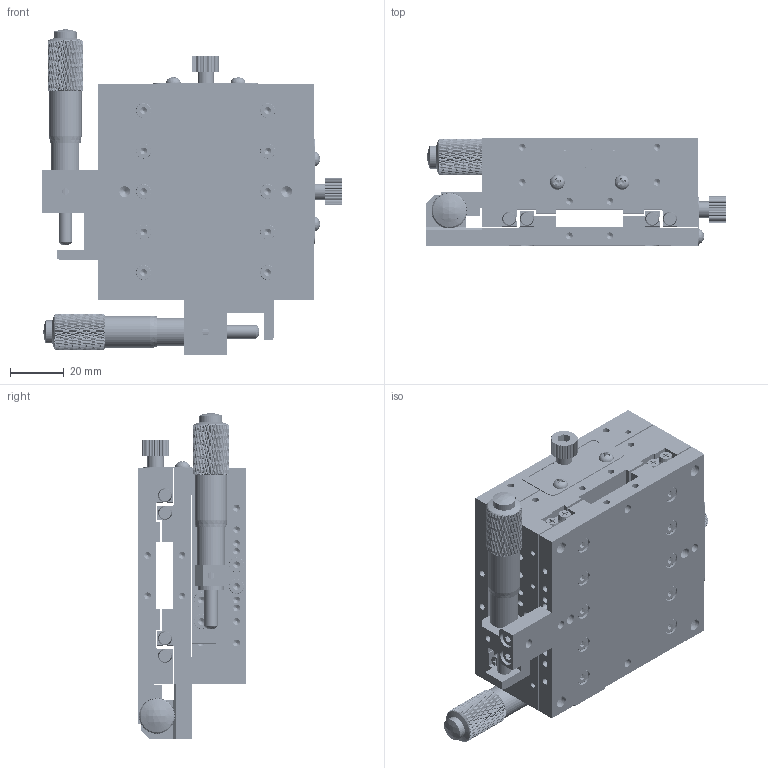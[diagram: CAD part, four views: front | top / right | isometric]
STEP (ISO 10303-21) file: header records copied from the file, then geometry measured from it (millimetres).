
FILE_DESCRIPTION (( 'STEP AP203' ), '1' );
FILE_NAME ('JCXY-80L-25.STEP', '2013-12-24T04:26:00', ( 'MMO' ), ( '' ), 'SwSTEP 2.0', 'SolidWorks 2013', '' );
FILE_SCHEMA (( 'CONFIG_CONTROL_DESIGN' ));
Length unit declared in the file: millimetre
Products named in the file (13): JALB-73-RS; JCX-80-10-01; JCX-80-01-01; round cross head screw_ks_KS 1023 RC - M3 x 5-N; JCX-80-02-01; JCX-80L-25; JV2-75-13; socket head cap screw_ks_KS 1003 - M4 x 6 x 6-N; JCXY-40S-04-01; JCXY-80L-25; JCX-60-18T-006; JCX-60-20T-004; socket head cap screw_ks_KS 1003 - M3 x 5 x 5-N
Assembly tree (43 placements, depth 3):
  JCXY-80L-25
    JCX-80L-25  x2
      JCX-80-01-01
      JCX-80-02-01
      JV2-75-13
      JCXY-40S-04-01
      JCX-60-18T-006
      JCX-60-20T-004
      socket head cap screw_ks_KS 1003 - M3 x 5 x 5-N
      JALB-73-RS
      JCX-80-10-01
      round cross head screw_ks_KS 1023 RC - M3 x 5-N
    socket head cap screw_ks_KS 1003 - M4 x 6 x 6-N  x4
Bounding box: 110.9 x 40 x 120.7 mm (x, y, z)
Volume: 231192.4 mm3; surface area: 122950.9 mm2
Topology: 78 solids, 78 shells, 6574 faces, 15124 edges, 8700 vertices
Faces by surface type: cylinder 2096, bspline 1920, plane 1686, cone 524, torus 328, sphere 20
Entity records: 82225 total; most frequent: CARTESIAN_POINT 42116, ORIENTED_EDGE 9712, DIRECTION 5880, EDGE_CURVE 4856, VERTEX_POINT 2837, AXIS2_PLACEMENT_3D 2391, EDGE_LOOP 2379, ADVANCED_FACE 2148
